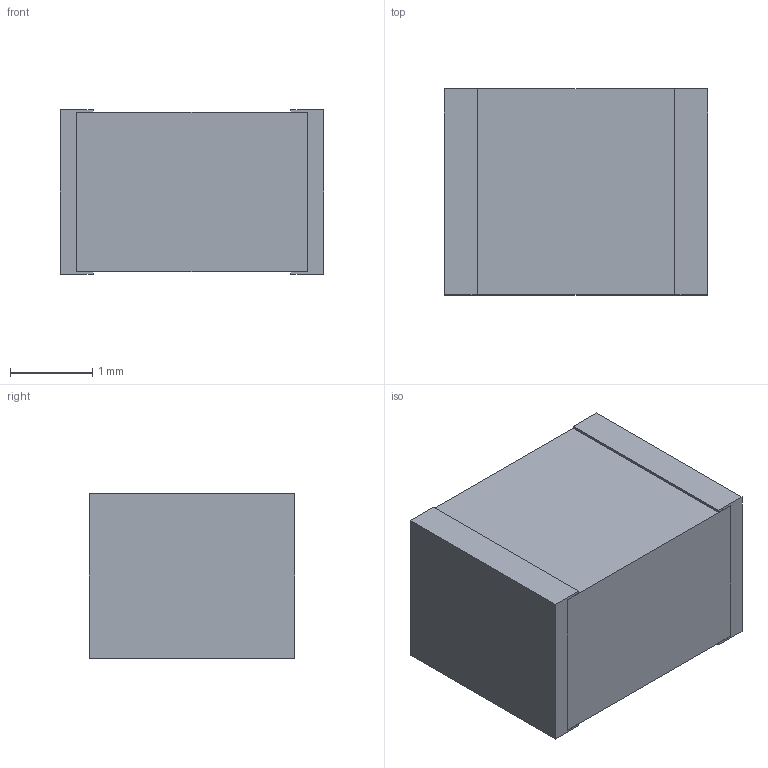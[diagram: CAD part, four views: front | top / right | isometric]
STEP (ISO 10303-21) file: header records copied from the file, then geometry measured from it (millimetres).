
FILE_DESCRIPTION(('HOOPS Exchange Step'),'2;1');
FILE_NAME('C:\Users\knoguchi\Desktop\STP\B3.stp','2021-07-20T09:40:20+09:00',('knoguchi'),('Unknown organisation'),'HOOPS Exchange 2021.1','HOOPS Exchange','Unknown authorisation');
FILE_SCHEMA( ('AP203_CONFIGURATION_CONTROLLED_3D_DESIGN_OF_MECHANICAL_PARTS_AND_ASSEMBLIES_MIM_LF') );
Length unit declared in the file: millimetre
Products named in the file (1): Export
Bounding box: 3.2 x 2.5 x 2 mm (x, y, z)
Volume: 15.6 mm3; surface area: 62.2 mm2
Topology: 3 solids, 3 shells, 26 faces, 60 edges, 40 vertices
Faces by surface type: plane 26
Entity records: 679 total; most frequent: CARTESIAN_POINT 187, ORIENTED_EDGE 120, B_SPLINE_CURVE_WITH_KNOTS 60, EDGE_CURVE 60, DIRECTION 54, VERTEX_POINT 40, AXIS2_PLACEMENT_3D 27, PLANE 26
